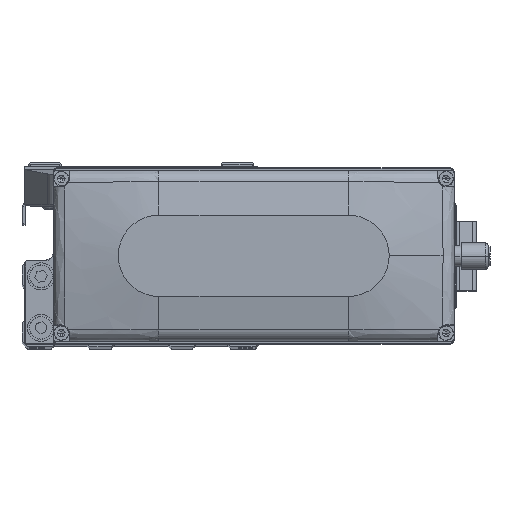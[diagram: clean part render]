
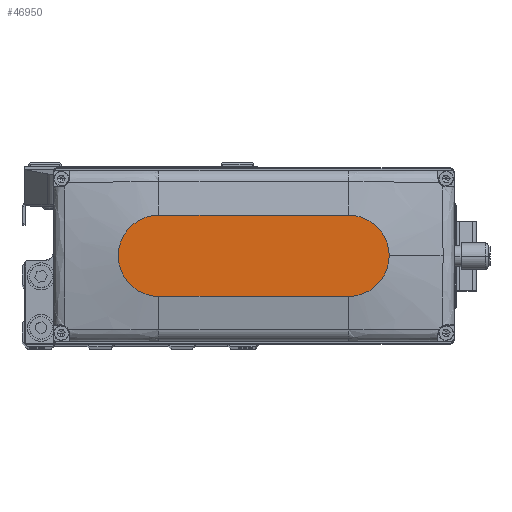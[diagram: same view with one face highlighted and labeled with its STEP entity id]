
A CAD part, top view. The second image highlights one B-rep face of the part: STEP entity #46950.
In plain terms, the highlighted planar face has unit normal (0, 0, 1).
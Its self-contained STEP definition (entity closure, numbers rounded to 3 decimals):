
#1568 = EDGE_CURVE ( 'NONE', #31166, #35305, #28839, .T. ) ;
#2321 = EDGE_CURVE ( 'NONE', #35305, #27446, #29975, .T. ) ;
#3436 = CARTESIAN_POINT ( 'NONE',  ( -35., -15., 35. ) ) ;
#3611 = EDGE_LOOP ( 'NONE', ( #33611, #21710, #11451, #38569, #31558 ) ) ;
#4502 = DIRECTION ( 'NONE',  ( 0., 0., 1. ) ) ;
#5621 = CIRCLE ( 'NONE', #32398, 15. ) ;
#6228 = EDGE_CURVE ( 'NONE', #9811, #21684, #10914, .T. ) ;
#8099 = FACE_OUTER_BOUND ( 'NONE', #3611, .T. ) ;
#8192 = AXIS2_PLACEMENT_3D ( 'NONE', #8541, #23160, #37756 ) ;
#8541 = CARTESIAN_POINT ( 'NONE',  ( 35., 0., 35. ) ) ;
#8888 = EDGE_CURVE ( 'NONE', #21684, #31166, #5621, .T. ) ;
#9811 = VERTEX_POINT ( 'NONE', #3436 ) ;
#10914 = LINE ( 'NONE', #25527, #16117 ) ;
#11451 = ORIENTED_EDGE ( 'NONE', *, *, #6228, .T. ) ;
#11764 = DIRECTION ( 'NONE',  ( -1., 0., 0. ) ) ;
#11884 = DIRECTION ( 'NONE',  ( 0., 0., 1. ) ) ;
#15800 = EDGE_CURVE ( 'NONE', #27446, #9811, #42006, .T. ) ;
#16117 = VECTOR ( 'NONE', #40132, 1000. ) ;
#16282 = CARTESIAN_POINT ( 'NONE',  ( 35., -15., 35. ) ) ;
#17709 = CARTESIAN_POINT ( 'NONE',  ( 35., 0., 35. ) ) ;
#19142 = DIRECTION ( 'NONE',  ( 1., 0., 0. ) ) ;
#21376 = AXIS2_PLACEMENT_3D ( 'NONE', #44694, #11884, #26501 ) ;
#21684 = VERTEX_POINT ( 'NONE', #16282 ) ;
#21710 = ORIENTED_EDGE ( 'NONE', *, *, #15800, .T. ) ;
#22724 = PLANE ( 'NONE',  #32366 ) ;
#23160 = DIRECTION ( 'NONE',  ( 0., 0., 1. ) ) ;
#23549 = VECTOR ( 'NONE', #11764, 1000. ) ;
#25527 = CARTESIAN_POINT ( 'NONE',  ( -35., -15., 35. ) ) ;
#26501 = DIRECTION ( 'NONE',  ( 1., 0., 0. ) ) ;
#27413 = CARTESIAN_POINT ( 'NONE',  ( 50., 0., 35. ) ) ;
#27446 = VERTEX_POINT ( 'NONE', #41771 ) ;
#28839 = CIRCLE ( 'NONE', #8192, 15. ) ;
#29975 = LINE ( 'NONE', #44576, #23549 ) ;
#31166 = VERTEX_POINT ( 'NONE', #27413 ) ;
#31558 = ORIENTED_EDGE ( 'NONE', *, *, #1568, .T. ) ;
#32310 = DIRECTION ( 'NONE',  ( 0., 0., 1. ) ) ;
#32366 = AXIS2_PLACEMENT_3D ( 'NONE', #37326, #4502, #19142 ) ;
#32398 = AXIS2_PLACEMENT_3D ( 'NONE', #17709, #32310, #46924 ) ;
#33611 = ORIENTED_EDGE ( 'NONE', *, *, #2321, .T. ) ;
#35305 = VERTEX_POINT ( 'NONE', #46668 ) ;
#37326 = CARTESIAN_POINT ( 'NONE',  ( 0., 0., 35. ) ) ;
#37756 = DIRECTION ( 'NONE',  ( 1., 0., 0. ) ) ;
#38569 = ORIENTED_EDGE ( 'NONE', *, *, #8888, .T. ) ;
#40132 = DIRECTION ( 'NONE',  ( 1., 0., 0. ) ) ;
#41771 = CARTESIAN_POINT ( 'NONE',  ( -35., 15., 35. ) ) ;
#42006 = CIRCLE ( 'NONE', #21376, 15. ) ;
#44576 = CARTESIAN_POINT ( 'NONE',  ( -35., 15., 35. ) ) ;
#44694 = CARTESIAN_POINT ( 'NONE',  ( -35., 0., 35. ) ) ;
#46668 = CARTESIAN_POINT ( 'NONE',  ( 35., 15., 35. ) ) ;
#46924 = DIRECTION ( 'NONE',  ( 1., 0., 0. ) ) ;
#46950 = ADVANCED_FACE ( 'NONE', ( #8099 ), #22724, .T. ) ;
